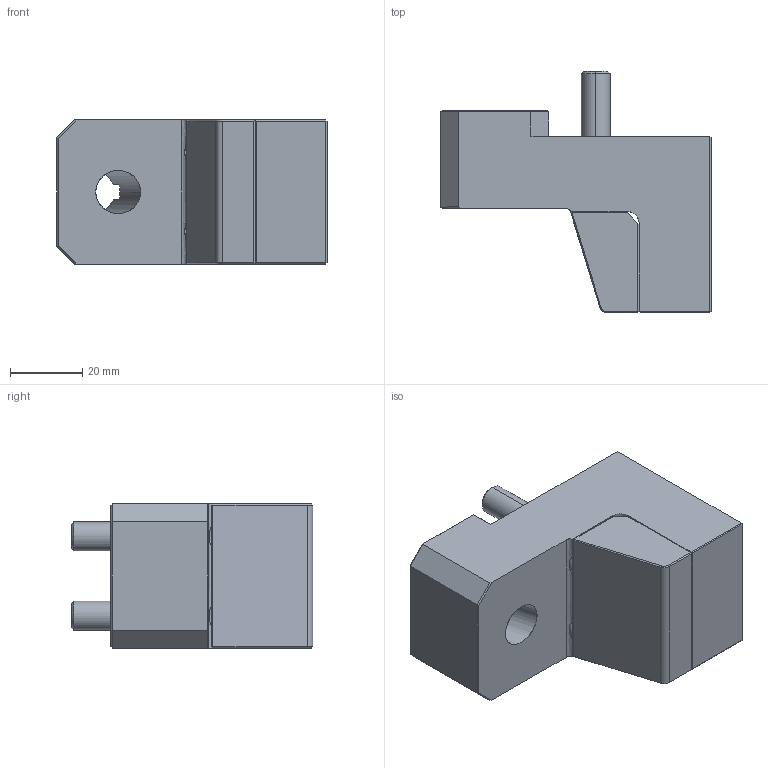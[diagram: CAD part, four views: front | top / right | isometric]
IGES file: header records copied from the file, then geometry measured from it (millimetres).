
Start section: START RECORD GO HERE.
Global section: file name: cg754049.igs; native system: DASSAULT SYSTEMES CATIA V5 R20 - www.3ds.com; preprocessor: CATIA Version 5 Release 20 ; author: Utente; organization: NB04-ASUS; date: 20201103.204752; units: millimetre
Bounding box: 75 x 67 x 40 mm (x, y, z)
Surface area: 25335.5 mm2 (no closed solid volume)
Topology: 0 solids, 0 shells, 152 faces, 690 edges, 684 vertices
Faces by surface type: plane 95, revolution 57
